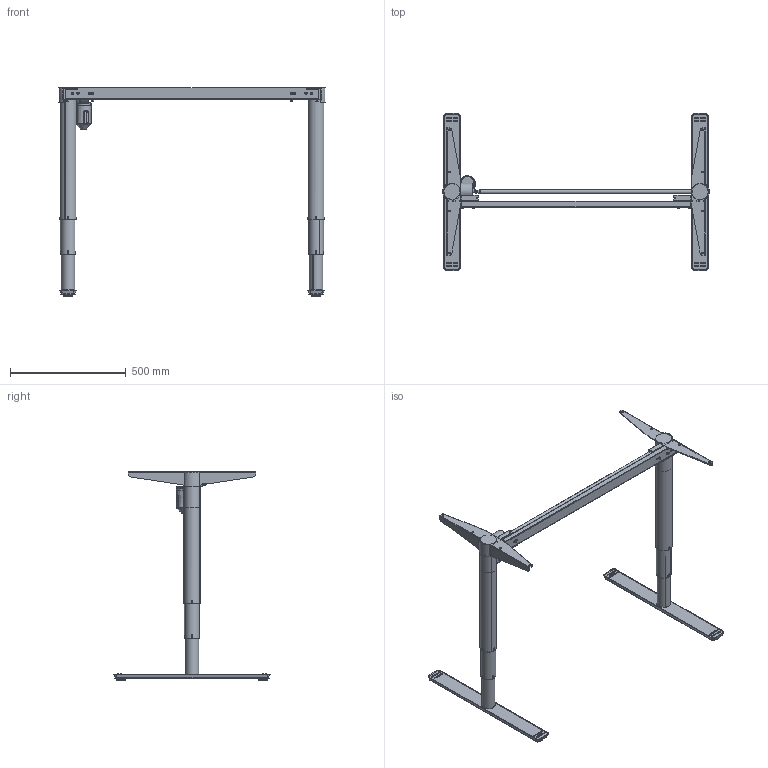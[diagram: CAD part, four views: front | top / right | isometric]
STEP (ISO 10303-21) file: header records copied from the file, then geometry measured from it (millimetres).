
FILE_DESCRIPTION (( 'STEP AP203' ), '1' );
FILE_NAME ('Tech-draw_501-49_XX112.STEP', '2019-09-25T06:53:46', ( '' ), ( '' ), 'SwSTEP 2.0', 'SolidWorks 2018', '' );
FILE_SCHEMA (( 'CONFIG_CONTROL_DESIGN' ));
Length unit declared in the file: millimetre
Products named in the file (35): 344290_shell view; 340760; 148950_501-49 XS112; 340560; 344630._›72silver; 138150_silver; 344630._›65silver; 347910_112; 344430_silver; 343600; 344300; 138100_silver1; 144260_112; 346600; 347920_112; 343610_shell view; 138130_silver; 138860_shell view; 138120_silver1; 352590; 324520_silver; 344220_shell view; 138110_silver; 344150_shell view; 138140_silver1; 344170; 139080_silver1; 341220; 138160_silver1; 332570; 138090_silver; 332560; 344210; Tech-draw_501-49_XX112; 344180
Assembly tree (62 placements, depth 6):
  Tech-draw_501-49_XX112
    148950_501-49 XS112
      347910_112
      144260_112
        347920_112
        340560
        341220
      138090_silver
        138100_silver1
          343600
          344170
          138860_shell view
            344150_shell view
            332560
          346600
        138110_silver
          138120_silver1
            343610_shell view
            344210
            344220_shell view
          139080_silver1
            344290_shell view
          344630._›65silver  x4
        324520_silver  x2
        344430_silver
        344630._›72silver  x4
        352590
      138130_silver
        138140_silver1
          344300
          138860_shell view
            344150_shell view
            332560
          344180
        138150_silver
          138160_silver1
            343610_shell view
            344210
            344220_shell view
          139080_silver1
            344290_shell view
          344630._›65silver  x4
        324520_silver  x2
        344630._›72silver  x4
      340760  x4
      332570  x4
Bounding box: 1151.5 x 679.46 x 902.5 mm (x, y, z)
Volume: 2447106.4 mm3; surface area: 2570322.7 mm2
Topology: 51 solids, 51 shells, 4836 faces, 12022 edges, 7257 vertices
Faces by surface type: plane 1686, cylinder 1650, bspline 648, torus 439, sphere 256, cone 157
Full cylindrical faces by diameter (mm): 2.8 x4, 3 x2, 4.6 x4, 5 x4, 6 x10, 7 x8, 7.6 x4, 8 x12, 9 x4, 10 x8, 11.9 x2, 12 x1, 13 x2, 15 x4, 16 x2, 18 x1, 20 x1, 37.6 x8, 58 x2, 58.35 x2, 60 x1, 65 x2, 66.6 x1, 72 x2
Entity records: 81129 total; most frequent: CARTESIAN_POINT 34428, ORIENTED_EDGE 9022, DIRECTION 8574, EDGE_CURVE 4511, AXIS2_PLACEMENT_3D 3316, VERTEX_POINT 2878, EDGE_LOOP 2073, VECTOR 1942
